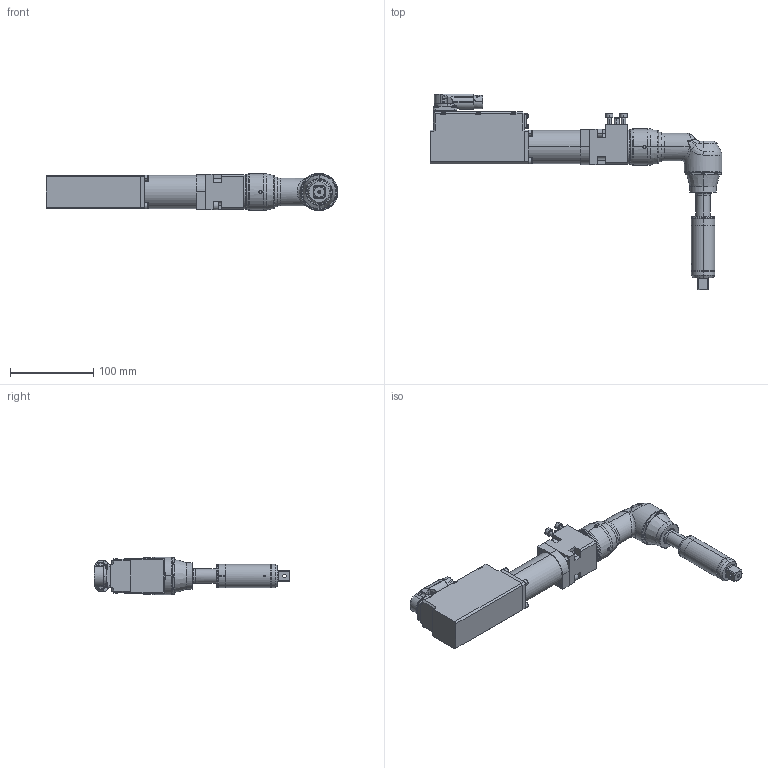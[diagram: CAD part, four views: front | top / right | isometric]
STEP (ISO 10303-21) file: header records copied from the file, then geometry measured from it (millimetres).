
FILE_DESCRIPTION (( 'STEP AP214' ), '1' );
FILE_NAME ('70121614_KSX1083WF25.STEP', '2020-01-15T13:34:36', ( 'admin' ), ( '' ), 'SwSTEP 2.0', 'SolidWorks 2017', '' );
FILE_SCHEMA (( 'AUTOMOTIVE_DESIGN' ));
Length unit declared in the file: millimetre
Products named in the file (11): 7002413_3; 70111055; 70111036; 70111007; 70111012; 70111000_KSX1_Stecker_vorne; 70111180_Pos_vorne; 70111180; 70111180_2; 70111000; 70121614_KSX1083WF25
Assembly tree (10 placements, depth 4):
  70121614_KSX1083WF25
    70111000_KSX1_Stecker_vorne
      70111000
      70111180_Pos_vorne
        70111180_2
        70111180
    70111012
    70111007
    70111036
    70111055
    7002413_3
Bounding box: 349.9 x 234.7 x 45 mm (x, y, z)
Volume: 679453.4 mm3; surface area: 136066.5 mm2
Topology: 12 solids, 14 shells, 2289 faces, 5826 edges, 3662 vertices
Faces by surface type: cylinder 874, plane 779, cone 375, torus 156, bspline 55, sphere 50
Entity records: 82180 total; most frequent: CARTESIAN_POINT 20183, ORIENTED_EDGE 11496, DIRECTION 11150, EDGE_CURVE 5748, AXIS2_PLACEMENT_3D 4444, VERTEX_POINT 3662, EDGE_LOOP 2500, ADVANCED_FACE 2289
